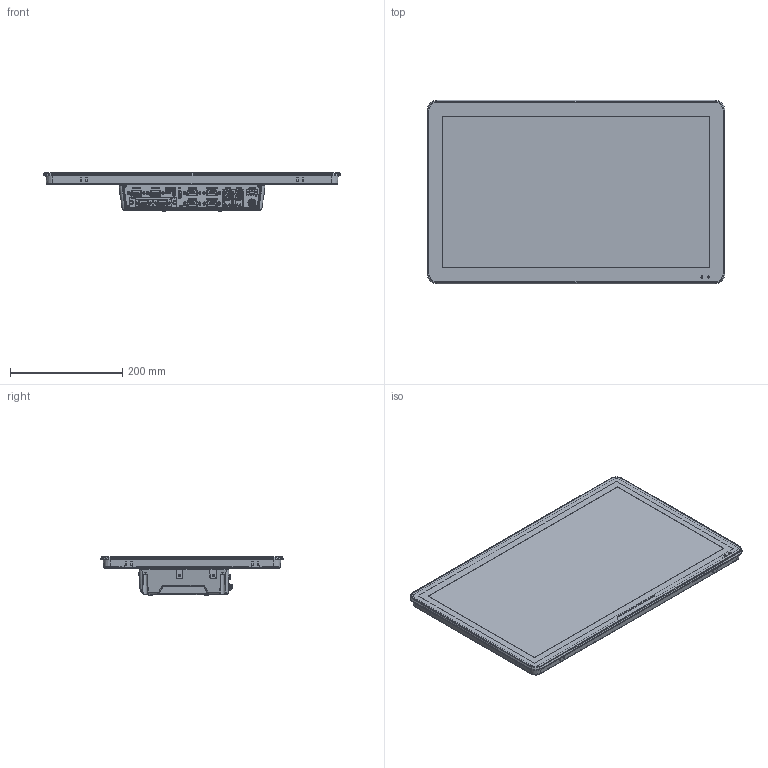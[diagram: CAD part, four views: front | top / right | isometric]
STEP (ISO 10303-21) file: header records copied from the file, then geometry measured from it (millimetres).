
FILE_DESCRIPTION (( 'STEP AP214' ), '1' );
FILE_NAME ('QY-P8215 蚾饜极俋楷02.STEP', '2023-09-22T08:38:48', ( '' ), ( '' ), 'SwSTEP 2.0', 'SolidWorks 2018', '' );
FILE_SCHEMA (( 'AUTOMOTIVE_DESIGN' ));
Length unit declared in the file: millimetre
Products named in the file (12): QY-P8215嘐隅啣01; QY-P8215 蚾饜极俋楷02; IO結啣; QY-P8215 耀撿醱啣俋楷01; WIFI黑芛; 12mm祥凄詩羲壽情遴; 毞盄結啣; 8000炵蹈4G縐羞裔; QY-P8000-10210蚾饜极02; 綴褲耀撿20220913俋楷璃01; QY-P8215 电容触摸屏; 后壳模具20220913外发件组件01
Assembly tree (12 placements, depth 3):
  QY-P8215 蚾饜极俋楷02
    QY-P8215 耀撿醱啣俋楷01
    QY-P8215 电容触摸屏
    QY-P8215嘐隅啣01
    后壳模具20220913外发件组件01
      綴褲耀撿20220913俋楷璃01
      IO結啣
      QY-P8000-10210蚾饜极02
      12mm祥凄詩羲壽情遴
      毞盄結啣
      WIFI黑芛  x2
      8000炵蹈4G縐羞裔
Bounding box: 531 x 327 x 68 mm (x, y, z)
Volume: 4743819.8 mm3; surface area: 1322024 mm2
Topology: 37 solids, 37 shells, 6834 faces, 17205 edges, 10761 vertices
Faces by surface type: plane 3253, cylinder 2030, bspline 878, cone 446, torus 151, sphere 76
Entity records: 291535 total; most frequent: CARTESIAN_POINT 91288, ORIENTED_EDGE 34066, DIRECTION 29829, EDGE_CURVE 17033, VECTOR 10875, LINE 10875, VERTEX_POINT 10749, AXIS2_PLACEMENT_3D 9477
